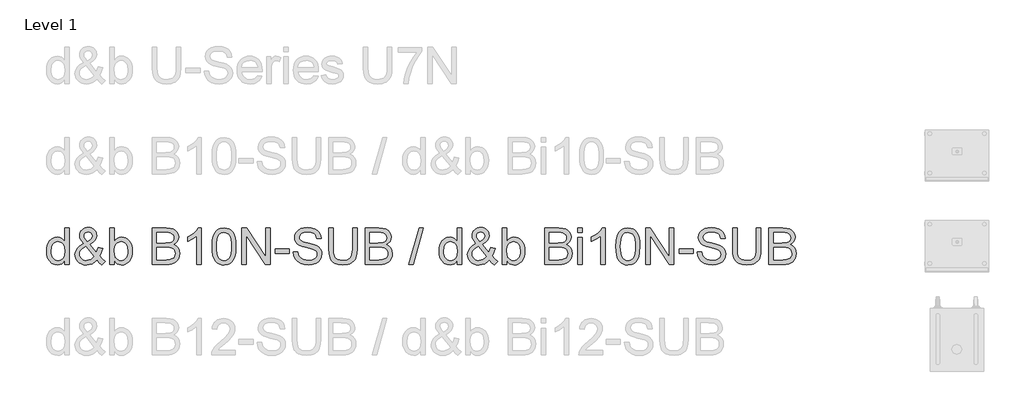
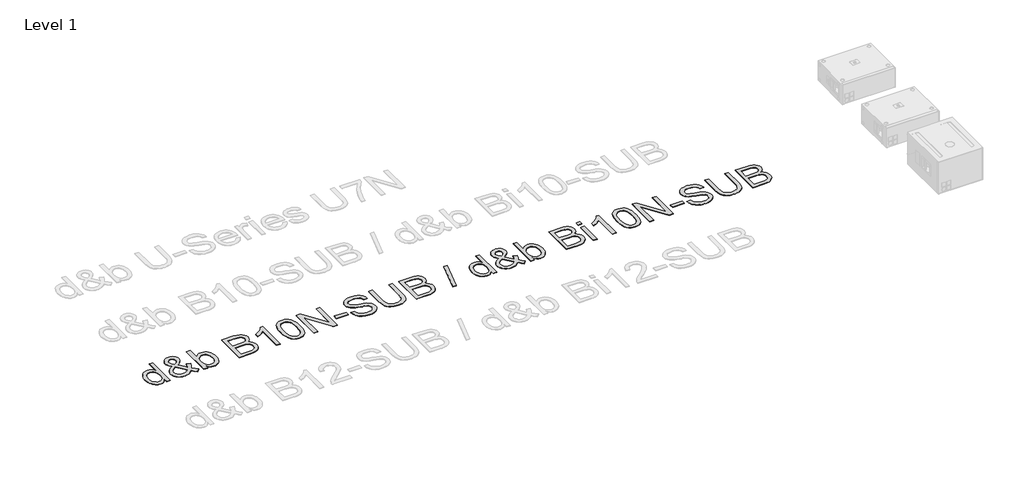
# One storey, part 19 of 29: 1 proxy.
"""IFC4 building model written with IfcOpenShell, lengths in millimetres."""

from ifc_helpers import new_model, si_unit, origin, origin_with_axes, place, context, project, spatial, polyline, outline, extrude, element, save

model = new_model("IFC4")

# Units and contexts
model_context = context("Model", 3, world=origin())
ifc_project = project(units=[si_unit("LENGTHUNIT", "METRE", prefix="MILLI")], contexts=[model_context])

# Site, building, storey
site = spatial("IfcSite", under=ifc_project)
building = spatial("IfcBuilding", under=site)
storey = spatial("IfcBuildingStorey", under=building, Name="Level 1", Elevation=0.0)

# Proxy
placement = place(None, origin())
element("IfcBuildingElementProxy", 1, Name="400mm Arial", ObjectType="400mm Arial", at=placement, inside=storey, context=model_context, shape_type="SweptSolid", body=[
    extrude(outline(polyline([(-20788.4119982, 9464.3636615), (-20788.4119982, 9511.7468625), (-20803.4399777, 9488.2698598), (-20821.6440051, 9471.5005722), (-20843.0240804, 9461.4389996), (-20867.5802036, 9458.0851421), (-20900.051921, 9462.9411844), (-20929.7767862, 9477.5093115), (-20954.9399147, 9500.7717163), (-20973.7264219, 9531.7105921), (-20985.4250694, 9569.0751401), (-20989.3246185, 9611.6145614), (-20985.7316377, 9653.6266853), (-20974.9526952, 9691.5675817), (-20957.0000539, 9723.2790097), (-20931.8859763, 9746.6027282), (-20901.5111863, 9760.950126), (-20867.7764073, 9765.7325919), (-20843.20189, 9762.3112894), (-20821.4723268, 9752.0473817), (-20803.0537016, 9736.3142951), (-20788.4119982, 9716.4854555), (-20788.4119982, 9866.1889021), (-20738.1838431, 9866.1889021), (-20738.1838431, 9464.3636615), (-20788.4119982, 9464.3636615)]), holes=[polyline([(-20939.0964634, 9611.8107652), (-20937.6801177, 9587.4539114), (-20933.4310807, 9566.3773388), (-20926.3493523, 9548.5810472), (-20916.4349325, 9534.0650368), (-20891.7377879, 9514.7512321), (-20877.8625053, 9509.9227809), (-20862.9694159, 9508.3132972), (-20848.0058157, 9509.8492045), (-20834.2133066, 9514.4569265), (-20810.1415614, 9532.8878145), (-20800.6348775, 9546.7968196), (-20793.844389, 9563.9493176), (-20788.4119982, 9607.9847924), (-20793.9424909, 9656.1282828), (-20800.8556067, 9674.663404), (-20810.5339688, 9689.5074425), (-20822.235682, 9700.8811276), (-20835.2188507, 9709.0051883), (-20849.4834751, 9713.8796247), (-20865.0295551, 9715.5044369), (-20880.2169501, 9713.9440041), (-20894.0922327, 9709.2627057), (-20906.6554028, 9701.4605417), (-20917.9064605, 9690.5375121), (-20927.1770868, 9676.2544937), (-20933.7989627, 9658.372363), (-20939.0964634, 9611.8107652)])]), origin_with_axes(), (0.0, 0.0, 1.0), 5.0),
    extrude(outline(polyline([(-20432.4003287, 9514.0032054), (-20457.9313392, 9489.5390527), (-20485.6696416, 9472.0646579), (-20515.664287, 9461.5800211), (-20547.9643262, 9458.0851421), (-20577.2722584, 9460.6725788), (-20603.3918801, 9468.4348889), (-20626.3231911, 9481.3720724), (-20646.0661915, 9499.4841293), (-20658.8991418, 9516.8542908), (-20668.0655348, 9535.2177338), (-20673.5653707, 9554.5744581), (-20675.3986493, 9574.9244638), (-20669.5002746, 9610.118508), (-20651.8051507, 9641.7318341), (-20622.3868538, 9669.7399167), (-20581.3189604, 9694.1182302), (-20603.2324646, 9722.4696693), (-20616.3903773, 9744.9349965), (-20622.975465, 9764.1139112), (-20625.1704942, 9782.6061128), (-20623.4414488, 9800.1602153), (-20618.2543127, 9816.5248327), (-20609.6090858, 9831.699965), (-20597.5057682, 9845.6856122), (-20582.784357, 9857.4026538), (-20566.2848495, 9865.7719692), (-20548.0072457, 9870.7935584), (-20527.9515456, 9872.4674215), (-20508.8032878, 9870.8671348), (-20491.4821772, 9866.0662748), (-20475.9882138, 9858.0648414), (-20462.3213977, 9846.8628346), (-20451.1623105, 9833.4167477), (-20443.1915339, 9818.6830738), (-20438.409068, 9802.6618129), (-20436.8149127, 9785.352965), (-20441.5360649, 9757.3694079), (-20455.6995218, 9731.4950409), (-20479.3052831, 9707.729864), (-20512.353349, 9686.0738773), (-20439.6598668, 9595.5258555), (-20427.2745063, 9621.4002225), (-20417.9793545, 9651.1496132), (-20367.7511994, 9640.2603061), (-20383.2022432, 9593.7354965), (-20403.2640747, 9557.5604336), (-20374.7164319, 9524.2548503), (-20342.6371219, 9496.7372771), (-20380.3082382, 9458.0851421), (-20405.9373505, 9481.5314879), (-20432.4003287, 9514.0032054)]), holes=[polyline([(-20537.7617322, 9717.7607798), (-20511.4949577, 9734.4258341), (-20496.4608468, 9748.908122), (-20489.3975125, 9762.9980024), (-20487.0430678, 9778.4858344), (-20490.1455392, 9796.0338056), (-20499.4529537, 9810.0255842), (-20513.4202068, 9819.1858458), (-20530.5021941, 9822.2392664), (-20547.9520634, 9819.2103713), (-20562.2381476, 9810.123686), (-20571.7662912, 9796.6714677), (-20574.9423391, 9780.5459736), (-20570.6258571, 9762.1518739), (-20557.578309, 9741.6976349), (-20537.7617322, 9717.7607798)]), polyline([(-20466.0492686, 9550.2027937), (-20555.7143735, 9662.1370221), (-20589.9641873, 9640.2848316), (-20610.8966728, 9620.0513218), (-20621.6020389, 9600.7252544), (-20625.1704942, 9581.5953906), (-20620.2899264, 9557.9037901), (-20605.648223, 9533.3292729), (-20594.8692805, 9522.3847835), (-20582.0547244, 9514.5672911), (-20567.2045545, 9509.8767957), (-20550.3187709, 9508.3132972), (-20527.5959264, 9511.2318277), (-20504.1618433, 9519.9874192), (-20482.7388484, 9533.3783238), (-20466.0492686, 9550.2027937)])]), origin_with_axes(), (0.0, 0.0, 1.0), 5.0),
    extrude(outline(polyline([(-20242.1808118, 9464.3636615), (-20292.4089668, 9464.3636615), (-20292.4089668, 9866.1889021), (-20242.1808118, 9866.1889021), (-20242.1808118, 9717.1721686), (-20225.6629102, 9738.4173538), (-20207.011293, 9753.5924861), (-20186.2259603, 9762.6975655), (-20163.306912, 9765.7325919), (-20137.432545, 9762.9980024), (-20112.9806551, 9754.7942339), (-20091.3491937, 9741.6363213), (-20073.9361126, 9724.0392992), (-20060.2876906, 9702.1748459), (-20049.9502065, 9676.2146398), (-20043.4386952, 9647.2378013), (-20041.2681915, 9616.323451), (-20043.5153373, 9580.6511602), (-20050.2567749, 9549.270826), (-20061.4925041, 9522.1824484), (-20077.2225251, 9499.3860274), (-20096.1040685, 9481.3168901), (-20116.7943651, 9468.4103634), (-20139.2934148, 9460.6664474), (-20163.6012176, 9458.0851421), (-20187.274424, 9461.4144742), (-20208.2620918, 9471.4024703), (-20226.5642211, 9488.0491306), (-20242.1808118, 9511.354455), (-20242.1808118, 9464.3636615)]), holes=[polyline([(-20242.1808118, 9613.9690062), (-20238.7472465, 9572.0795097), (-20228.4465506, 9543.7280706), (-20216.2757879, 9528.2341072), (-20202.1307252, 9517.1669905), (-20186.0113625, 9510.5267205), (-20167.9176997, 9508.3132972), (-20152.8958515, 9509.9442407), (-20138.9285984, 9514.8370712), (-20126.0159404, 9522.9917888), (-20114.1578774, 9534.4083934), (-20104.2434577, 9549.0562281), (-20097.1617293, 9566.9046363), (-20092.9126922, 9587.9536178), (-20091.4963465, 9612.2031726), (-20096.9287373, 9658.1638965), (-20103.7192258, 9675.9571224), (-20113.2259097, 9690.2922575), (-20124.6578427, 9701.322586), (-20137.2240785, 9709.201392), (-20150.9246172, 9713.9286757), (-20165.7594586, 9715.5044369), (-20180.7813068, 9713.8734934), (-20194.7485599, 9708.9806628), (-20207.6612179, 9700.8259453), (-20219.5192809, 9689.4093407), (-20229.4337006, 9674.9086587), (-20236.515429, 9657.501709), (-20240.7644661, 9637.1884915), (-20242.1808118, 9613.9690062)])]), origin_with_axes(), (0.0, 0.0, 1.0), 5.0),
    extrude(outline(polyline([(-19821.520013, 9464.3636615), (-19821.520013, 9866.1889021), (-19668.1867974, 9866.1889021), (-19626.015258, 9863.2335834), (-19593.0898195, 9854.3676273), (-19567.8531146, 9839.3703046), (-19548.7477763, 9818.0208862), (-19536.7180351, 9792.9068086), (-19532.7081213, 9766.6155087), (-19536.080373, 9742.4211362), (-19546.1971278, 9719.6737661), (-19563.1319623, 9699.7713502), (-19586.9584529, 9684.1118399), (-19558.4966492, 9669.2494073), (-19537.4660618, 9646.6369274), (-19524.4798274, 9617.7704535), (-19520.1510826, 9584.1460391), (-19523.1064013, 9556.1256938), (-19531.9723573, 9530.1409622), (-19545.2038464, 9508.0435171), (-19561.2557642, 9491.685031), (-19580.9129254, 9479.8392308), (-19604.9601452, 9471.279843), (-19634.1822383, 9466.0927069), (-19669.3640198, 9464.3636615), (-19821.520013, 9464.3636615)]), holes=[polyline([(-19771.2918579, 9702.9473981), (-19679.5666138, 9702.9473981), (-19626.0029953, 9707.2638802), (-19607.2532763, 9714.7073592), (-19593.7765325, 9725.8541837), (-19585.6463404, 9740.5326753), (-19582.9362764, 9758.5711558), (-19585.4623994, 9776.0823387), (-19593.0407685, 9791.3371788), (-19605.3280272, 9803.2442927), (-19621.9808188, 9810.7122972), (-19647.5363548, 9814.6486346), (-19686.5318462, 9815.960747), (-19771.2918579, 9815.960747), (-19771.2918579, 9702.9473981)]), polyline([(-19771.2918579, 9514.5918166), (-19668.2848993, 9514.5918166), (-19631.0061904, 9516.5538539), (-19599.4664407, 9527.4922119), (-19587.8904206, 9536.9222537), (-19578.5707434, 9549.8103862), (-19572.4271141, 9565.5802611), (-19570.3792376, 9583.6555298), (-19572.7827333, 9604.649329), (-19579.9932204, 9622.7000722), (-19592.5870474, 9636.8144781), (-19611.1405627, 9645.9992652), (-19637.4195999, 9651.0392486), (-19673.1899926, 9652.719243), (-19771.2918579, 9652.719243), (-19771.2918579, 9514.5918166)])]), origin_with_axes(), (0.0, 0.0, 1.0), 5.0),
    extrude(outline(polyline([(-19281.567346, 9464.3636615), (-19331.795501, 9464.3636615), (-19331.795501, 9777.5048158), (-19352.7647748, 9760.5454558), (-19379.3749057, 9743.6106213), (-19432.2518112, 9718.2512891), (-19432.2518112, 9765.7325919), (-19392.8025986, 9787.192375), (-19358.6263612, 9812.7233855), (-19331.6851364, 9839.8730767), (-19313.9409615, 9866.1889021), (-19281.567346, 9866.1889021), (-19281.567346, 9464.3636615)])), origin_with_axes(), (0.0, 0.0, 1.0), 5.0),
    extrude(outline(polyline([(-19162.2754777, 9662.0389202), (-19158.584395, 9726.3569557), (-19147.5111469, 9777.6519686), (-19129.1660981, 9816.7087737), (-19117.3080351, 9831.942154), (-19103.6596131, 9844.3121861), (-19088.1748468, 9853.8832494), (-19070.8077509, 9860.7197231), (-19030.4265706, 9866.1889021), (-18999.4754321, 9862.9515405), (-18971.7616551, 9853.2394559), (-18948.5850894, 9837.4327928), (-18931.2455847, 9815.9116961), (-18918.1489857, 9788.8601067), (-18907.701137, 9756.4619657), (-18900.8585319, 9715.3204959), (-18898.5776635, 9662.0389202), (-18902.231958, 9598.0887667), (-18913.1948415, 9546.9163812), (-18931.4295257, 9507.8227879), (-18943.2599975, 9492.5434223), (-18956.8992225, 9480.1090109), (-18972.4023829, 9470.4735683), (-18989.824661, 9463.5911093), (-19030.4265706, 9458.0851421), (-19058.0912966, 9460.4763751), (-19082.616763, 9467.650074), (-19104.0029696, 9479.6062388), (-19122.2499166, 9496.3448696), (-19139.7610995, 9526.6031637), (-19152.2690874, 9564.3049368), (-19159.7738801, 9609.450189), (-19162.2754777, 9662.0389202)]), holes=[polyline([(-19112.0473226, 9662.1370221), (-19110.5757946, 9618.472495), (-19106.1612107, 9583.1282323), (-19098.8035708, 9556.104234), (-19088.5028749, 9537.4005003), (-19076.043938, 9524.6748489), (-19062.211575, 9515.585098), (-19047.0057858, 9510.1312474), (-19030.4265706, 9508.3132972), (-19013.8473553, 9510.1373787), (-18998.6415662, 9515.6096234), (-18984.8092032, 9524.7300312), (-18972.3502663, 9537.4986021), (-18962.0495704, 9556.2329927), (-18954.6919305, 9583.2508596), (-18950.2773466, 9618.5522027), (-18948.8058186, 9662.1370221), (-18950.2282956, 9704.6457866), (-18954.4957268, 9739.3677156), (-18961.608112, 9766.302809), (-18971.5654514, 9785.4510669), (-18983.8159218, 9798.7990519), (-18997.8077003, 9808.333327), (-19013.540787, 9814.053892), (-19031.0151818, 9815.960747), (-19047.5085579, 9814.2807526), (-19062.4568296, 9809.2407692), (-19075.859997, 9800.840797), (-19087.71806, 9789.0808359), (-19098.3621124, 9768.2341895), (-19105.9650069, 9740.1280051), (-19110.5267437, 9704.7622826), (-19112.0473226, 9662.1370221)])]), origin_with_axes(), (0.0, 0.0, 1.0), 5.0),
    extrude(outline(polyline([(-18835.7924697, 9464.3636615), (-18835.7924697, 9866.1889021), (-18782.0326474, 9866.1889021), (-18572.0946555, 9547.8483489), (-18572.0946555, 9866.1889021), (-18521.8665005, 9866.1889021), (-18521.8665005, 9464.3636615), (-18575.6263227, 9464.3636615), (-18785.5643146, 9782.8023165), (-18785.5643146, 9464.3636615), (-18835.7924697, 9464.3636615)])), origin_with_axes(), (0.0, 0.0, 1.0), 5.0),
    extrude(outline(polyline([(-18465.359826, 9583.6555298), (-18465.359826, 9633.8836849), (-18308.3968414, 9633.8836849), (-18308.3968414, 9583.6555298), (-18465.359826, 9583.6555298)])), origin_with_axes(), (0.0, 0.0, 1.0), 5.0),
    extrude(outline(polyline([(-18264.4472057, 9602.4910879), (-18214.2190506, 9602.4910879), (-18208.455566, 9574.6178954), (-18198.0322428, 9552.2138819), (-18181.7718586, 9534.4329188), (-18158.4971911, 9520.4288776), (-18130.0476501, 9511.3421923), (-18098.2626457, 9508.3132972), (-18070.2790886, 9510.6064283), (-18045.7781478, 9517.4858216), (-18025.9247828, 9528.3751287), (-18011.8839533, 9542.698001), (-18003.533032, 9559.1423262), (-18000.7493915, 9576.3959918), (-18002.8340562, 9593.2081989), (-18009.0880501, 9607.7395377), (-18021.7922417, 9620.137161), (-18043.2274993, 9630.5482214), (-18116.3624399, 9649.7271361), (-18164.3710403, 9662.419065), (-18195.0891869, 9674.4978571), (-18220.0928998, 9691.3959034), (-18237.8125492, 9711.8746678), (-18248.3707625, 9735.4926919), (-18251.8901669, 9761.8085173), (-18247.5368966, 9791.2268142), (-18234.4770858, 9818.6585483), (-18213.054091, 9841.9086904), (-18183.6112686, 9858.7822113), (-18148.2700716, 9869.0461189), (-18109.1519528, 9872.4674215), (-18066.771947, 9868.8867034), (-18029.6894418, 9858.1445491), (-17999.2288126, 9840.4616879), (-17976.7144345, 9816.0588489), (-17962.4651386, 9786.456611), (-17956.7997559, 9753.1755532), (-18007.0279109, 9753.1755532), (-18016.2494863, 9783.145673), (-18024.6126703, 9795.003736), (-18035.4774519, 9804.7771344), (-18065.5211482, 9817.8737334), (-18107.1899155, 9822.2392664), (-18149.8397015, 9817.9227843), (-18166.1430052, 9812.5271817), (-18179.0985828, 9804.9733381), (-18196.0211546, 9785.9170507), (-18201.6620118, 9763.2800453), (-18197.6643608, 9743.9785033), (-18185.6714078, 9728.4538831), (-18157.3199687, 9714.5724691), (-18103.6582483, 9700.3967496), (-18048.2797453, 9686.9322686), (-18014.7779583, 9675.1845702), (-17986.1444763, 9656.9621487), (-17966.168484, 9634.4722961), (-17954.4330484, 9607.9602669), (-17950.5212365, 9577.671316), (-17955.0216595, 9546.7079147), (-17968.5229288, 9517.5839235), (-17990.4732212, 9492.5188969), (-18020.3207137, 9473.7323896), (-18056.2137337, 9461.996954), (-18096.3006084, 9458.0851421), (-18145.5109567, 9462.3035223), (-18186.0147643, 9474.958663), (-18218.2780153, 9496.0996149), (-18242.7666934, 9525.7754292), (-18258.4875174, 9561.9259666), (-18264.4472057, 9602.4910879)])), origin_with_axes(), (0.0, 0.0, 1.0), 5.0),
    extrude(outline(polyline([(-17611.4811897, 9866.1889021), (-17561.2530346, 9866.1889021), (-17561.2530346, 9634.3741942), (-17564.6620745, 9580.0870744), (-17574.8891939, 9538.2834171), (-17583.0745683, 9521.3301884), (-17593.9945322, 9506.0324288), (-17624.0382285, 9480.4033165), (-17643.180355, 9470.6391152), (-17665.0938591, 9463.6646857), (-17717.2350006, 9458.0851421), (-17768.2357079, 9462.9411844), (-17809.0092957, 9477.5093115), (-17825.5639854, 9488.3097137), (-17839.5680267, 9501.2867511), (-17851.0214195, 9516.4404236), (-17859.9241638, 9533.7707312), (-17871.3652938, 9577.3402222), (-17875.1790039, 9634.3741942), (-17875.1790039, 9866.1889021), (-17824.9508488, 9866.1889021), (-17824.9508488, 9636.1400278), (-17822.4737767, 9591.000907), (-17815.0425604, 9559.5715218), (-17801.5780794, 9537.8051705), (-17781.0012131, 9521.6551509), (-17754.1703529, 9511.6487606), (-17721.9438901, 9508.3132972), (-17694.26077, 9509.9626348), (-17670.8573437, 9514.9106476), (-17651.7336114, 9523.1573357), (-17636.8895729, 9534.702699), (-17625.7734052, 9550.9385577), (-17617.8332855, 9573.2567321), (-17613.0692137, 9601.6572221), (-17611.4811897, 9636.1400278), (-17611.4811897, 9866.1889021)])), origin_with_axes(), (0.0, 0.0, 1.0), 5.0),
    extrude(outline(polyline([(-17473.3537633, 9464.3636615), (-17473.3537633, 9866.1889021), (-17320.0205477, 9866.1889021), (-17277.8490083, 9863.2335834), (-17244.9235697, 9854.3676273), (-17219.6868649, 9839.3703046), (-17200.5815266, 9818.0208862), (-17188.5517853, 9792.9068086), (-17184.5418716, 9766.6155087), (-17187.9141232, 9742.4211362), (-17198.0308781, 9719.6737661), (-17214.9657126, 9699.7713502), (-17238.7922031, 9684.1118399), (-17210.3303994, 9669.2494073), (-17189.2998121, 9646.6369274), (-17176.3135776, 9617.7704535), (-17171.9848328, 9584.1460391), (-17174.9401515, 9556.1256938), (-17183.8061076, 9530.1409622), (-17197.0375967, 9508.0435171), (-17213.0895144, 9491.685031), (-17232.7466757, 9479.8392308), (-17256.7938954, 9471.279843), (-17286.0159886, 9466.0927069), (-17321.1977701, 9464.3636615), (-17473.3537633, 9464.3636615)]), holes=[polyline([(-17423.1256082, 9514.5918166), (-17320.1186495, 9514.5918166), (-17282.8399407, 9516.5538539), (-17251.300191, 9527.4922119), (-17239.7241709, 9536.9222537), (-17230.4044936, 9549.8103862), (-17224.2608643, 9565.5802611), (-17222.2129879, 9583.6555298), (-17224.6164836, 9604.649329), (-17231.8269707, 9622.7000722), (-17244.4207977, 9636.8144781), (-17262.974313, 9645.9992652), (-17289.2533501, 9651.0392486), (-17325.0237428, 9652.719243), (-17423.1256082, 9652.719243), (-17423.1256082, 9514.5918166)]), polyline([(-17423.1256082, 9702.9473981), (-17331.4003641, 9702.9473981), (-17277.8367456, 9707.2638802), (-17259.0870265, 9714.7073592), (-17245.6102828, 9725.8541837), (-17237.4800907, 9740.5326753), (-17234.7700267, 9758.5711558), (-17237.2961497, 9776.0823387), (-17244.8745188, 9791.3371788), (-17257.1617774, 9803.2442927), (-17273.8145691, 9810.7122972), (-17299.370105, 9814.6486346), (-17338.3655965, 9815.960747), (-17423.1256082, 9815.960747), (-17423.1256082, 9702.9473981)])]), origin_with_axes(), (0.0, 0.0, 1.0), 5.0),
    extrude(outline(polyline([(-16989.9077707, 9464.3636615), (-16876.8944218, 9866.1889021), (-16831.3751562, 9866.1889021), (-16944.486607, 9464.3636615), (-16989.9077707, 9464.3636615)])), origin_with_axes(), (0.0, 0.0, 1.0), 5.0),
    extrude(outline(polyline([(-16456.233623, 9464.3636615), (-16456.233623, 9511.7468625), (-16471.2616025, 9488.2698598), (-16489.4656299, 9471.5005722), (-16510.8457052, 9461.4389996), (-16535.4018284, 9458.0851421), (-16567.8735458, 9462.9411844), (-16597.598411, 9477.5093115), (-16622.7615395, 9500.7717163), (-16641.5480467, 9531.7105921), (-16653.2466941, 9569.0751401), (-16657.1462433, 9611.6145614), (-16653.5532625, 9653.6266853), (-16642.77432, 9691.5675817), (-16624.8216787, 9723.2790097), (-16599.7076011, 9746.6027282), (-16569.332811, 9760.950126), (-16535.5980321, 9765.7325919), (-16511.0235148, 9762.3112894), (-16489.2939516, 9752.0473817), (-16470.8753264, 9736.3142951), (-16456.233623, 9716.4854555), (-16456.233623, 9866.1889021), (-16406.0054679, 9866.1889021), (-16406.0054679, 9464.3636615), (-16456.233623, 9464.3636615)]), holes=[polyline([(-16606.9180882, 9611.8107652), (-16605.5017425, 9587.4539114), (-16601.2527055, 9566.3773388), (-16594.1709771, 9548.5810472), (-16584.2565573, 9534.0650368), (-16559.5594127, 9514.7512321), (-16545.6841301, 9509.9227809), (-16530.7910407, 9508.3132972), (-16515.8274405, 9509.8492045), (-16502.0349314, 9514.4569265), (-16477.9631862, 9532.8878145), (-16468.4565023, 9546.7968196), (-16461.6660138, 9563.9493176), (-16456.233623, 9607.9847924), (-16461.7641157, 9656.1282828), (-16468.6772315, 9674.663404), (-16478.3555936, 9689.5074425), (-16490.0573068, 9700.8811276), (-16503.0404755, 9709.0051883), (-16517.3050999, 9713.8796247), (-16532.8511799, 9715.5044369), (-16548.0385749, 9713.9440041), (-16561.9138575, 9709.2627057), (-16574.4770276, 9701.4605417), (-16585.7280853, 9690.5375121), (-16594.9987116, 9676.2544937), (-16601.6205875, 9658.372363), (-16606.9180882, 9611.8107652)])]), origin_with_axes(), (0.0, 0.0, 1.0), 5.0),
    extrude(outline(polyline([(-16100.2219535, 9514.0032054), (-16125.752964, 9489.5390527), (-16153.4912664, 9472.0646579), (-16183.4859118, 9461.5800211), (-16215.785951, 9458.0851421), (-16245.0938832, 9460.6725788), (-16271.2135049, 9468.4348889), (-16294.1448159, 9481.3720724), (-16313.8878163, 9499.4841293), (-16326.7207666, 9516.8542908), (-16335.8871596, 9535.2177338), (-16341.3869955, 9554.5744581), (-16343.2202741, 9574.9244638), (-16337.3218994, 9610.118508), (-16319.6267755, 9641.7318341), (-16290.2084786, 9669.7399167), (-16249.1405852, 9694.1182302), (-16271.0540894, 9722.4696693), (-16284.2120021, 9744.9349965), (-16290.7970898, 9764.1139112), (-16292.992119, 9782.6061128), (-16291.2630736, 9800.1602153), (-16286.0759375, 9816.5248327), (-16277.4307106, 9831.699965), (-16265.327393, 9845.6856122), (-16250.6059818, 9857.4026538), (-16234.1064743, 9865.7719692), (-16215.8288705, 9870.7935584), (-16195.7731704, 9872.4674215), (-16176.6249126, 9870.8671348), (-16159.303802, 9866.0662748), (-16143.8098386, 9858.0648414), (-16130.1430225, 9846.8628346), (-16118.9839353, 9833.4167477), (-16111.0131587, 9818.6830738), (-16106.2306928, 9802.6618129), (-16104.6365375, 9785.352965), (-16109.3576897, 9757.3694079), (-16123.5211466, 9731.4950409), (-16147.1269079, 9707.729864), (-16180.1749738, 9686.0738773), (-16107.4814916, 9595.5258555), (-16095.0961311, 9621.4002225), (-16085.8009793, 9651.1496132), (-16035.5728242, 9640.2603061), (-16051.023868, 9593.7354965), (-16071.0856995, 9557.5604336), (-16042.5380567, 9524.2548503), (-16010.4587467, 9496.7372771), (-16048.129863, 9458.0851421), (-16073.7589753, 9481.5314879), (-16100.2219535, 9514.0032054)]), holes=[polyline([(-16133.8708934, 9550.2027937), (-16223.5359983, 9662.1370221), (-16257.7858121, 9640.2848316), (-16278.7182976, 9620.0513218), (-16289.4236637, 9600.7252544), (-16292.992119, 9581.5953906), (-16288.1115512, 9557.9037901), (-16273.4698478, 9533.3292729), (-16262.6909053, 9522.3847835), (-16249.8763492, 9514.5672911), (-16235.0261793, 9509.8767957), (-16218.1403957, 9508.3132972), (-16195.4175512, 9511.2318277), (-16171.9834681, 9519.9874192), (-16150.5604732, 9533.3783238), (-16133.8708934, 9550.2027937)]), polyline([(-16205.583357, 9717.7607798), (-16179.3165825, 9734.4258341), (-16164.2824716, 9748.908122), (-16157.2191373, 9762.9980024), (-16154.8646926, 9778.4858344), (-16157.967164, 9796.0338056), (-16167.2745785, 9810.0255842), (-16181.2418316, 9819.1858458), (-16198.3238189, 9822.2392664), (-16215.7736882, 9819.2103713), (-16230.0597724, 9810.123686), (-16239.587916, 9796.6714677), (-16242.7639639, 9780.5459736), (-16238.4474819, 9762.1518739), (-16225.3999338, 9741.6976349), (-16205.583357, 9717.7607798)])]), origin_with_axes(), (0.0, 0.0, 1.0), 5.0),
    extrude(outline(polyline([(-15910.0024366, 9464.3636615), (-15960.2305916, 9464.3636615), (-15960.2305916, 9866.1889021), (-15910.0024366, 9866.1889021), (-15910.0024366, 9717.1721686), (-15893.484535, 9738.4173538), (-15874.8329178, 9753.5924861), (-15854.0475851, 9762.6975655), (-15831.1285368, 9765.7325919), (-15805.2541698, 9762.9980024), (-15780.8022799, 9754.7942339), (-15759.1708185, 9741.6363213), (-15741.7577374, 9724.0392992), (-15728.1093154, 9702.1748459), (-15717.7718313, 9676.2146398), (-15711.26032, 9647.2378013), (-15709.0898163, 9616.323451), (-15711.3369621, 9580.6511602), (-15718.0783997, 9549.270826), (-15729.3141289, 9522.1824484), (-15745.0441499, 9499.3860274), (-15763.9256933, 9481.3168901), (-15784.6159899, 9468.4103634), (-15807.1150396, 9460.6664474), (-15831.4228424, 9458.0851421), (-15855.0960488, 9461.4144742), (-15876.0837166, 9471.4024703), (-15894.3858459, 9488.0491306), (-15910.0024366, 9511.354455), (-15910.0024366, 9464.3636615)]), holes=[polyline([(-15910.0024366, 9613.9690062), (-15906.5688713, 9572.0795097), (-15896.2681754, 9543.7280706), (-15884.0974127, 9528.2341072), (-15869.95235, 9517.1669905), (-15853.8329873, 9510.5267205), (-15835.7393245, 9508.3132972), (-15820.7174763, 9509.9442407), (-15806.7502232, 9514.8370712), (-15793.8375652, 9522.9917888), (-15781.9795022, 9534.4083934), (-15772.0650825, 9549.0562281), (-15764.9833541, 9566.9046363), (-15760.734317, 9587.9536178), (-15759.3179713, 9612.2031726), (-15764.7503621, 9658.1638965), (-15771.5408506, 9675.9571224), (-15781.0475345, 9690.2922575), (-15792.4794675, 9701.322586), (-15805.0457033, 9709.201392), (-15818.746242, 9713.9286757), (-15833.5810834, 9715.5044369), (-15848.6029316, 9713.8734934), (-15862.5701846, 9708.9806628), (-15875.4828427, 9700.8259453), (-15887.3409057, 9689.4093407), (-15897.2553254, 9674.9086587), (-15904.3370538, 9657.501709), (-15908.5860909, 9637.1884915), (-15910.0024366, 9613.9690062)])]), origin_with_axes(), (0.0, 0.0, 1.0), 5.0),
    extrude(outline(polyline([(-15489.3416378, 9464.3636615), (-15489.3416378, 9866.1889021), (-15336.0084222, 9866.1889021), (-15293.8368828, 9863.2335834), (-15260.9114443, 9854.3676273), (-15235.6747394, 9839.3703046), (-15216.5694011, 9818.0208862), (-15204.5396599, 9792.9068086), (-15200.5297461, 9766.6155087), (-15203.9019978, 9742.4211362), (-15214.0187526, 9719.6737661), (-15230.9535871, 9699.7713502), (-15254.7800777, 9684.1118399), (-15226.318274, 9669.2494073), (-15205.2876866, 9646.6369274), (-15192.3014522, 9617.7704535), (-15187.9727074, 9584.1460391), (-15190.9280261, 9556.1256938), (-15199.7939821, 9530.1409622), (-15213.0254712, 9508.0435171), (-15229.077389, 9491.685031), (-15248.7345502, 9479.8392308), (-15272.78177, 9471.279843), (-15302.0038631, 9466.0927069), (-15337.1856446, 9464.3636615), (-15489.3416378, 9464.3636615)]), holes=[polyline([(-15439.1134827, 9702.9473981), (-15347.3882386, 9702.9473981), (-15293.8246201, 9707.2638802), (-15275.0749011, 9714.7073592), (-15261.5981573, 9725.8541837), (-15253.4679652, 9740.5326753), (-15250.7579012, 9758.5711558), (-15253.2840242, 9776.0823387), (-15260.8623933, 9791.3371788), (-15273.149652, 9803.2442927), (-15289.8024436, 9810.7122972), (-15315.3579796, 9814.6486346), (-15354.353471, 9815.960747), (-15439.1134827, 9815.960747), (-15439.1134827, 9702.9473981)]), polyline([(-15439.1134827, 9514.5918166), (-15336.1065241, 9514.5918166), (-15298.8278152, 9516.5538539), (-15267.2880655, 9527.4922119), (-15255.7120454, 9536.9222537), (-15246.3923682, 9549.8103862), (-15240.2487389, 9565.5802611), (-15238.2008624, 9583.6555298), (-15240.6043581, 9604.649329), (-15247.8148452, 9622.7000722), (-15260.4086722, 9636.8144781), (-15278.9621875, 9645.9992652), (-15305.2412247, 9651.0392486), (-15341.0116174, 9652.719243), (-15439.1134827, 9652.719243), (-15439.1134827, 9514.5918166)])]), origin_with_axes(), (0.0, 0.0, 1.0), 5.0),
    extrude(outline(polyline([(-15125.1875135, 9464.3636615), (-15125.1875135, 9759.4540726), (-15074.9593584, 9759.4540726), (-15074.9593584, 9464.3636615), (-15125.1875135, 9464.3636615)])), origin_with_axes(), (0.0, 0.0, 1.0), 5.0),
    extrude(outline(polyline([(-15125.1875135, 9815.960747), (-15125.1875135, 9866.1889021), (-15074.9593584, 9866.1889021), (-15074.9593584, 9815.960747), (-15125.1875135, 9815.960747)])), origin_with_axes(), (0.0, 0.0, 1.0), 5.0),
    extrude(outline(polyline([(-14823.8185831, 9464.3636615), (-14874.0467381, 9464.3636615), (-14874.0467381, 9777.5048158), (-14895.0160119, 9760.5454558), (-14921.6261429, 9743.6106213), (-14974.5030483, 9718.2512891), (-14974.5030483, 9765.7325919), (-14935.0538357, 9787.192375), (-14900.8775983, 9812.7233855), (-14873.9363735, 9839.8730767), (-14856.1921986, 9866.1889021), (-14823.8185831, 9866.1889021), (-14823.8185831, 9464.3636615)])), origin_with_axes(), (0.0, 0.0, 1.0), 5.0),
    extrude(outline(polyline([(-14704.5267148, 9662.0389202), (-14700.8356321, 9726.3569557), (-14689.762384, 9777.6519686), (-14671.4173352, 9816.7087737), (-14659.5592722, 9831.942154), (-14645.9108502, 9844.3121861), (-14630.4260839, 9853.8832494), (-14613.058988, 9860.7197231), (-14572.6778077, 9866.1889021), (-14541.7266692, 9862.9515405), (-14514.0128922, 9853.2394559), (-14490.8363265, 9837.4327928), (-14473.4968218, 9815.9116961), (-14460.4002228, 9788.8601067), (-14449.9523741, 9756.4619657), (-14443.109769, 9715.3204959), (-14440.8289006, 9662.0389202), (-14444.4831951, 9598.0887667), (-14455.4460786, 9546.9163812), (-14473.6807628, 9507.8227879), (-14485.5112346, 9492.5434223), (-14499.1504596, 9480.1090109), (-14514.65362, 9470.4735683), (-14532.0758982, 9463.5911093), (-14572.6778077, 9458.0851421), (-14600.3425337, 9460.4763751), (-14624.8680001, 9467.650074), (-14646.2542067, 9479.6062388), (-14664.5011537, 9496.3448696), (-14682.0123367, 9526.6031637), (-14694.5203245, 9564.3049368), (-14702.0251172, 9609.450189), (-14704.5267148, 9662.0389202)]), holes=[polyline([(-14654.2985597, 9662.1370221), (-14652.8270317, 9618.472495), (-14648.4124478, 9583.1282323), (-14641.0548079, 9556.104234), (-14630.754112, 9537.4005003), (-14618.2951751, 9524.6748489), (-14604.4628121, 9515.585098), (-14589.2570229, 9510.1312474), (-14572.6778077, 9508.3132972), (-14556.0985924, 9510.1373787), (-14540.8928033, 9515.6096234), (-14527.0604403, 9524.7300312), (-14514.6015034, 9537.4986021), (-14504.3008075, 9556.2329927), (-14496.9431676, 9583.2508596), (-14492.5285837, 9618.5522027), (-14491.0570557, 9662.1370221), (-14492.4795327, 9704.6457866), (-14496.7469639, 9739.3677156), (-14503.8593491, 9766.302809), (-14513.8166885, 9785.4510669), (-14526.0671589, 9798.7990519), (-14540.0589375, 9808.333327), (-14555.7920241, 9814.053892), (-14573.2664189, 9815.960747), (-14589.759795, 9814.2807526), (-14604.7080667, 9809.2407692), (-14618.1112341, 9800.840797), (-14629.9692971, 9789.0808359), (-14640.6133495, 9768.2341895), (-14648.216244, 9740.1280051), (-14652.7779808, 9704.7622826), (-14654.2985597, 9662.1370221)])]), origin_with_axes(), (0.0, 0.0, 1.0), 5.0),
    extrude(outline(polyline([(-14378.0437068, 9464.3636615), (-14378.0437068, 9866.1889021), (-14324.2838846, 9866.1889021), (-14114.3458926, 9547.8483489), (-14114.3458926, 9866.1889021), (-14064.1177376, 9866.1889021), (-14064.1177376, 9464.3636615), (-14117.8775598, 9464.3636615), (-14327.8155517, 9782.8023165), (-14327.8155517, 9464.3636615), (-14378.0437068, 9464.3636615)])), origin_with_axes(), (0.0, 0.0, 1.0), 5.0),
    extrude(outline(polyline([(-14007.6110631, 9583.6555298), (-14007.6110631, 9633.8836849), (-13850.6480785, 9633.8836849), (-13850.6480785, 9583.6555298), (-14007.6110631, 9583.6555298)])), origin_with_axes(), (0.0, 0.0, 1.0), 5.0),
    extrude(outline(polyline([(-13806.6984428, 9602.4910879), (-13756.4702877, 9602.4910879), (-13750.7068031, 9574.6178954), (-13740.2834799, 9552.2138819), (-13724.0230958, 9534.4329188), (-13700.7484282, 9520.4288776), (-13672.2988872, 9511.3421923), (-13640.5138828, 9508.3132972), (-13612.5303257, 9510.6064283), (-13588.0293849, 9517.4858216), (-13568.1760199, 9528.3751287), (-13554.1351904, 9542.698001), (-13545.7842691, 9559.1423262), (-13543.0006287, 9576.3959918), (-13545.0852933, 9593.2081989), (-13551.3392872, 9607.7395377), (-13564.0434788, 9620.137161), (-13585.4787364, 9630.5482214), (-13658.613677, 9649.7271361), (-13706.6222774, 9662.419065), (-13737.340424, 9674.4978571), (-13762.3441369, 9691.3959034), (-13780.0637864, 9711.8746678), (-13790.6219996, 9735.4926919), (-13794.141404, 9761.8085173), (-13789.7881338, 9791.2268142), (-13776.7283229, 9818.6585483), (-13755.3053281, 9841.9086904), (-13725.8625057, 9858.7822113), (-13690.5213087, 9869.0461189), (-13651.4031899, 9872.4674215), (-13609.0231841, 9868.8867034), (-13571.9406789, 9858.1445491), (-13541.4800497, 9840.4616879), (-13518.9656716, 9816.0588489), (-13504.7163757, 9786.456611), (-13499.050993, 9753.1755532), (-13549.279148, 9753.1755532), (-13558.5007234, 9783.145673), (-13566.8639074, 9795.003736), (-13577.728689, 9804.7771344), (-13607.7723853, 9817.8737334), (-13649.4411526, 9822.2392664), (-13692.0909386, 9817.9227843), (-13708.3942423, 9812.5271817), (-13721.3498199, 9804.9733381), (-13738.2723917, 9785.9170507), (-13743.913249, 9763.2800453), (-13739.9155979, 9743.9785033), (-13727.9226449, 9728.4538831), (-13699.5712058, 9714.5724691), (-13645.9094854, 9700.3967496), (-13590.5309824, 9686.9322686), (-13557.0291954, 9675.1845702), (-13528.3957135, 9656.9621487), (-13508.4197211, 9634.4722961), (-13496.6842855, 9607.9602669), (-13492.7724736, 9577.671316), (-13497.2728967, 9546.7079147), (-13510.7741659, 9517.5839235), (-13532.7244583, 9492.5188969), (-13562.5719508, 9473.7323896), (-13598.4649708, 9461.996954), (-13638.5518455, 9458.0851421), (-13687.7621938, 9462.3035223), (-13728.2660014, 9474.958663), (-13760.5292524, 9496.0996149), (-13785.0179306, 9525.7754292), (-13800.7387545, 9561.9259666), (-13806.6984428, 9602.4910879)])), origin_with_axes(), (0.0, 0.0, 1.0), 5.0),
    extrude(outline(polyline([(-13153.7324268, 9866.1889021), (-13103.5042718, 9866.1889021), (-13103.5042718, 9634.3741942), (-13106.9133116, 9580.0870744), (-13117.140431, 9538.2834171), (-13125.3258054, 9521.3301884), (-13136.2457693, 9506.0324288), (-13166.2894656, 9480.4033165), (-13185.4315921, 9470.6391152), (-13207.3450963, 9463.6646857), (-13259.4862377, 9458.0851421), (-13310.486945, 9462.9411844), (-13351.2605328, 9477.5093115), (-13367.8152226, 9488.3097137), (-13381.8192638, 9501.2867511), (-13393.2726566, 9516.4404236), (-13402.1754009, 9533.7707312), (-13413.616531, 9577.3402222), (-13417.430241, 9634.3741942), (-13417.430241, 9866.1889021), (-13367.2020859, 9866.1889021), (-13367.2020859, 9636.1400278), (-13364.7250138, 9591.000907), (-13357.2937975, 9559.5715218), (-13343.8293165, 9537.8051705), (-13323.2524502, 9521.6551509), (-13296.42159, 9511.6487606), (-13264.1951272, 9508.3132972), (-13236.5120071, 9509.9626348), (-13213.1085809, 9514.9106476), (-13193.9848485, 9523.1573357), (-13179.14081, 9534.702699), (-13168.0246423, 9550.9385577), (-13160.0845226, 9573.2567321), (-13155.3204508, 9601.6572221), (-13153.7324268, 9636.1400278), (-13153.7324268, 9866.1889021)])), origin_with_axes(), (0.0, 0.0, 1.0), 5.0),
    extrude(outline(polyline([(-13015.6050004, 9464.3636615), (-13015.6050004, 9866.1889021), (-12862.2717848, 9866.1889021), (-12820.1002454, 9863.2335834), (-12787.1748068, 9854.3676273), (-12761.938102, 9839.3703046), (-12742.8327637, 9818.0208862), (-12730.8030224, 9792.9068086), (-12726.7931087, 9766.6155087), (-12730.1653603, 9742.4211362), (-12740.2821152, 9719.6737661), (-12757.2169497, 9699.7713502), (-12781.0434403, 9684.1118399), (-12752.5816366, 9669.2494073), (-12731.5510492, 9646.6369274), (-12718.5648147, 9617.7704535), (-12714.2360699, 9584.1460391), (-12717.1913886, 9556.1256938), (-12726.0573447, 9530.1409622), (-12739.2888338, 9508.0435171), (-12755.3407515, 9491.685031), (-12774.9979128, 9479.8392308), (-12799.0451325, 9471.279843), (-12828.2672257, 9466.0927069), (-12863.4490072, 9464.3636615), (-13015.6050004, 9464.3636615)]), holes=[polyline([(-12965.3768453, 9702.9473981), (-12873.6516012, 9702.9473981), (-12820.0879827, 9707.2638802), (-12801.3382637, 9714.7073592), (-12787.8615199, 9725.8541837), (-12779.7313278, 9740.5326753), (-12777.0212638, 9758.5711558), (-12779.5473868, 9776.0823387), (-12787.1257559, 9791.3371788), (-12799.4130145, 9803.2442927), (-12816.0658062, 9810.7122972), (-12841.6213421, 9814.6486346), (-12880.6168336, 9815.960747), (-12965.3768453, 9815.960747), (-12965.3768453, 9702.9473981)]), polyline([(-12965.3768453, 9514.5918166), (-12862.3698867, 9514.5918166), (-12825.0911778, 9516.5538539), (-12793.5514281, 9527.4922119), (-12781.975408, 9536.9222537), (-12772.6557308, 9549.8103862), (-12766.5121014, 9565.5802611), (-12764.464225, 9583.6555298), (-12766.8677207, 9604.649329), (-12774.0782078, 9622.7000722), (-12786.6720348, 9636.8144781), (-12805.2255501, 9645.9992652), (-12831.5045873, 9651.0392486), (-12867.2749799, 9652.719243), (-12965.3768453, 9652.719243), (-12965.3768453, 9514.5918166)])]), origin_with_axes(), (0.0, 0.0, 1.0), 5.0),
])

save(model, "model.ifc")
